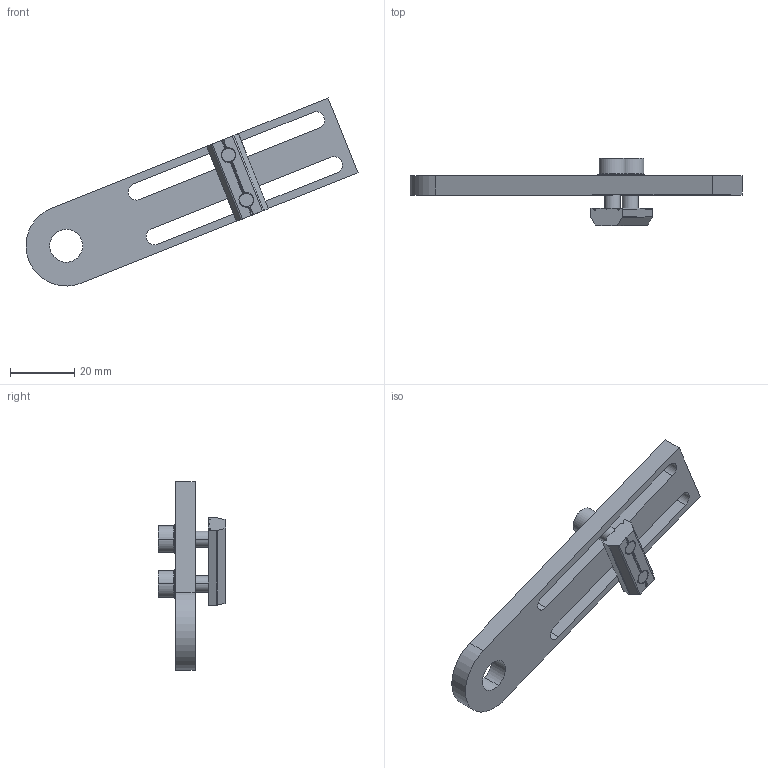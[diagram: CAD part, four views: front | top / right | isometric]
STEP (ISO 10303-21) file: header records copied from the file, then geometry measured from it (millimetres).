
FILE_DESCRIPTION (( 'STEP AP214' ), '1' );
FILE_NAME ('SMBE5-M1260T.STEP', '2023-01-09T03:46:35', ( 'Windows User' ), ( 'P R C' ), 'SwSTEP 2.0', 'SolidWorks 2018', '' );
FILE_SCHEMA (( 'AUTOMOTIVE_DESIGN' ));
Length unit declared in the file: millimetre
Products named in the file (5): PTS-M5; PTC-M5L16; PTN-M5P15; SMBE5-M1260T; SMBE5-M1260
Assembly tree (6 placements, depth 2):
  SMBE5-M1260T
    PTC-M5L16  x2
    PTN-M5P15
    PTS-M5  x2
    SMBE5-M1260
Bounding box: 103.05 x 21 x 58.36 mm (x, y, z)
Volume: 13083.7 mm3; surface area: 9216.6 mm2
Topology: 6 solids, 6 shells, 445 faces, 1299 edges, 862 vertices
Faces by surface type: plane 377, cylinder 56, cone 12
Entity records: 9023 total; most frequent: CARTESIAN_POINT 1687, ORIENTED_EDGE 1530, DIRECTION 1495, EDGE_CURVE 765, VERTEX_POINT 508, AXIS2_PLACEMENT_3D 508, LINE 479, VECTOR 479
